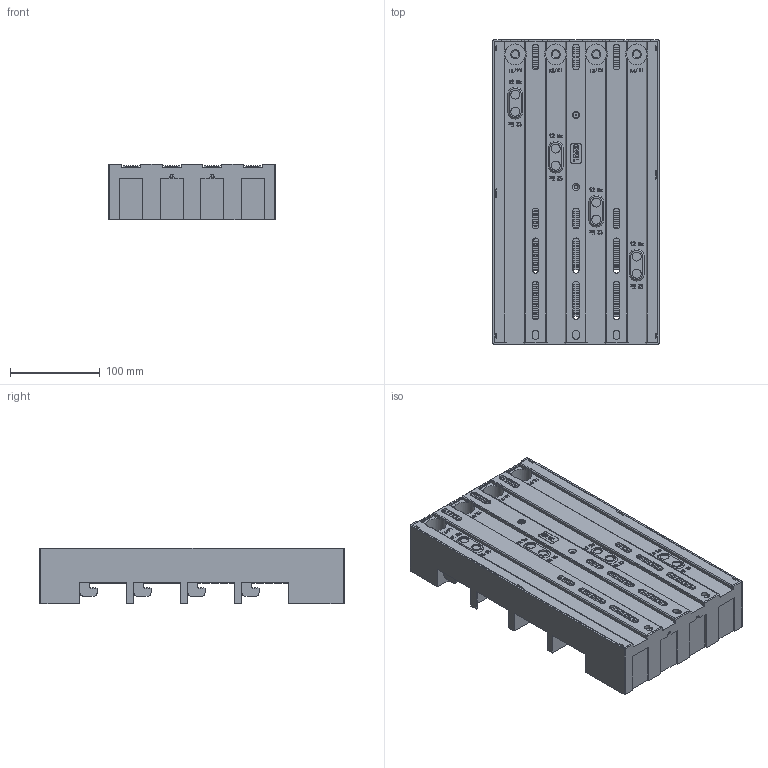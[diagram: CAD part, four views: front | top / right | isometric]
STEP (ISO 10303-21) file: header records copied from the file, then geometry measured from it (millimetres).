
FILE_DESCRIPTION (( 'STEP AP203' ), '1' );
FILE_NAME ('55184.STEP', '2021-09-01T05:19:09', ( '' ), ( '' ), 'SwSTEP 2.0', 'SolidWorks 2017', '' );
FILE_SCHEMA (( 'CONFIG_CONTROL_DESIGN' ));
Length unit declared in the file: millimetre
Products named in the file (2): 55184
Bounding box: 185 x 338 x 62 mm (x, y, z)
Volume: 2200555.5 mm3; surface area: 391804.8 mm2
Topology: 1 solids, 5 shells, 3590 faces, 10325 edges, 6755 vertices
Faces by surface type: plane 2978, cylinder 350, bspline 208, cone 30, sphere 16, torus 8
Full cylindrical faces by diameter (mm): 3.3 x1, 4 x1, 4.2 x4, 4.5 x2, 5.2 x3, 7 x1, 8 x4, 9 x1, 10 x9, 11 x4, 23 x4
Entity records: 132707 total; most frequent: CARTESIAN_POINT 39166, ORIENTED_EDGE 20464, DIRECTION 17382, EDGE_CURVE 10232, LINE 8952, VECTOR 8952, VERTEX_POINT 6731, AXIS2_PLACEMENT_3D 4215
